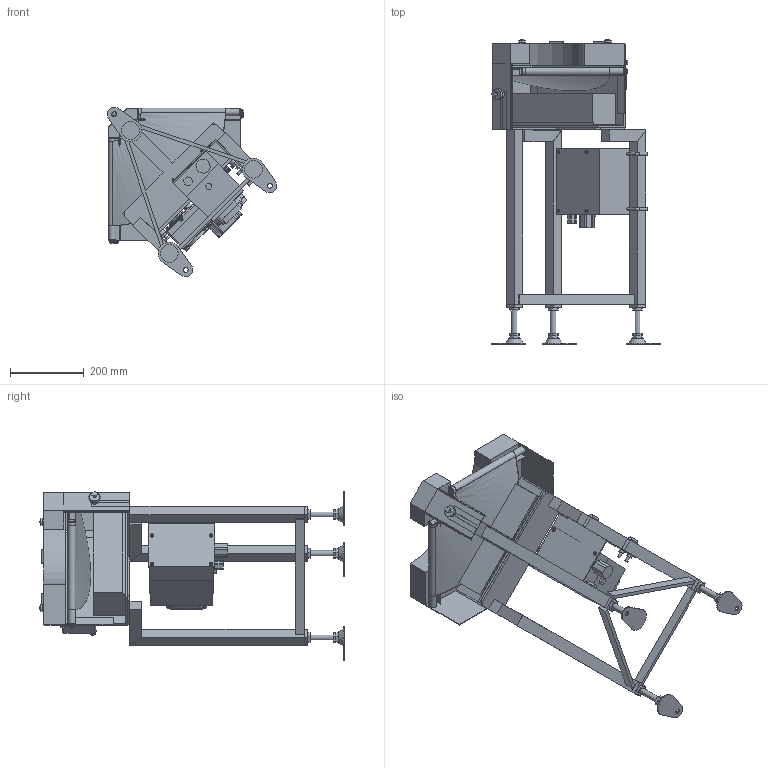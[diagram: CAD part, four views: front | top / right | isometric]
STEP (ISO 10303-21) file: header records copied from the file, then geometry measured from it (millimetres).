
FILE_DESCRIPTION (( 'STEP AP214' ), '1' );
FILE_NAME ('GFBC90-HS150-DC-L.STEP', '2023-04-20T02:49:39', ( '' ), ( '' ), 'SwSTEP 2.0', 'SolidWorks 2017', '' );
FILE_SCHEMA (( 'AUTOMOTIVE_DESIGN' ));
Length unit declared in the file: millimetre
Products named in the file (1): GFBC90-HS150-DC-L
Bounding box: 461.08 x 827.92 x 461.08 mm (x, y, z)
Volume: 14480783.2 mm3; surface area: 2039912.3 mm2
Topology: 63 solids, 64 shells, 1201 faces, 2743 edges, 1765 vertices
Faces by surface type: plane 857, cylinder 252, cone 48, bspline 30, torus 12, sphere 2
Full cylindrical faces by diameter (mm): 4 x4, 4.2 x2, 4.5 x1, 5 x4, 5.9 x4, 6 x13, 7 x1, 7.6 x4, 8 x23, 9 x12, 9.2 x1, 10 x7, 12 x2, 12.2 x2, 12.5 x7, 13 x9, 15 x4, 15.4 x1, 16 x9, 17 x2, 18 x2, 18.4 x1, 20 x7, 21 x1, 24 x1, 25 x1, 30 x6, 51 x1
Entity records: 53180 total; most frequent: CARTESIAN_POINT 13032, DIRECTION 5320, ORIENTED_EDGE 5044, EDGE_CURVE 2522, AXIS2_PLACEMENT_3D 1785, LINE 1750, VECTOR 1750, VERTEX_POINT 1717
